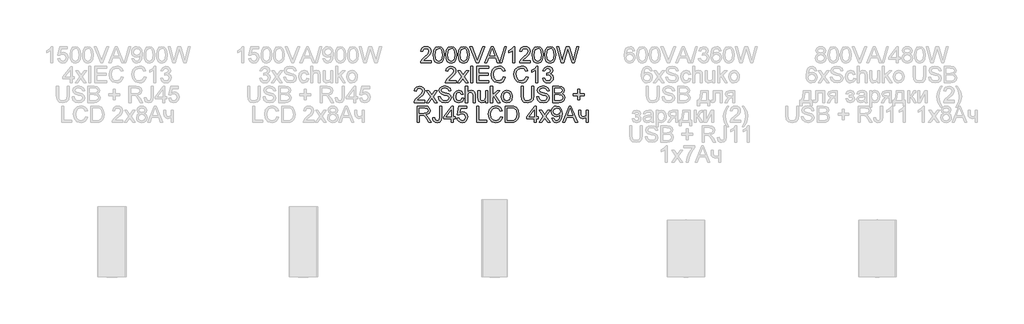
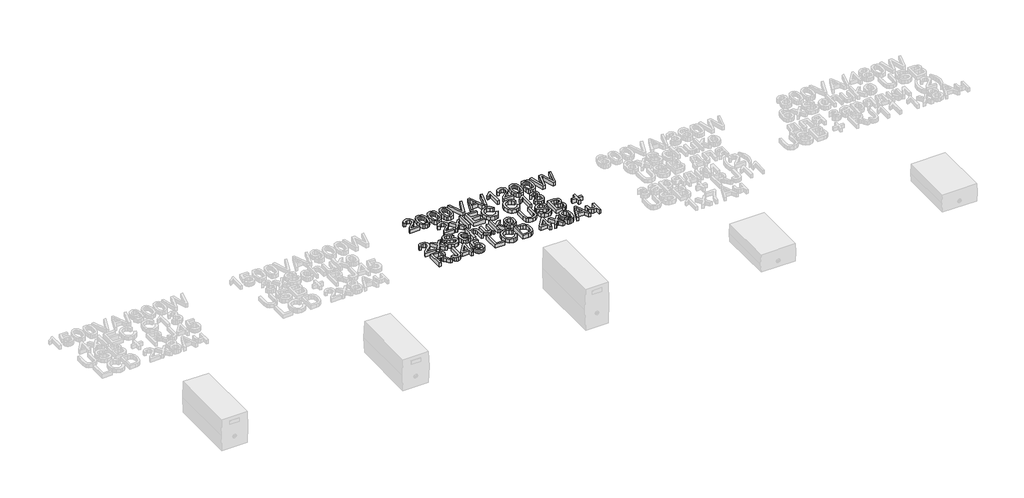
# One storey, part 49 of 74: 1 proxy.
"""IFC4 building model written with IfcOpenShell, lengths in millimetres."""

from ifc_helpers import new_model, si_unit, origin, origin_with_axes, place, context, project, spatial, polyline, outline, extrude, element, save

model = new_model("IFC4")

# Units and contexts
model_context = context("Model", 3, world=origin())
ifc_project = project(units=[si_unit("LENGTHUNIT", "METRE", prefix="MILLI")], contexts=[model_context])

# Site, building, storey
site = spatial("IfcSite", under=ifc_project)
building = spatial("IfcBuilding", under=site)
storey = spatial("IfcBuildingStorey", under=building, Name="Этаж 01", Elevation=0.0)

# Proxy
placement = place(None, origin())
element("IfcBuildingElementProxy", 1, Name="80 мм Arial", ObjectType="80 мм Arial", at=placement, inside=storey, context=model_context, shape_type="SweptSolid", body=[
    extrude(outline(polyline([(8574.8094335, -11016.5876949), (8574.8094335, -11026.633326), (8522.0698707, -11026.633326), (8523.1489912, -11019.7073343), (8529.2509273, -11009.0436615), (8541.8275864, -10997.3989701), (8559.1719962, -10980.6627918), (8563.5080987, -10969.2829755), (8559.4172509, -10960.0712103), (8548.7339577, -10956.3139089), (8537.599396, -10959.9829186), (8533.3712056, -10970.1266515), (8523.3255746, -10968.8709476), (8525.7609534, -10959.1539579), (8531.026571, -10952.0562879), (8538.8477422, -10947.7152804), (8548.9497818, -10946.2682778), (8559.1253978, -10947.8771484), (8566.9318538, -10952.7037602), (8571.8982607, -10959.9142473), (8573.5537297, -10968.6747439), (8571.7682757, -10978.200435), (8565.8331129, -10988.0498623), (8551.4415692, -11001.813554), (8539.8851695, -11011.4765878), (8535.3528633, -11016.5876949), (8574.8094335, -11016.5876949)])), origin_with_axes(), (0.0, 0.0, 1.0), 20.0),
    extrude(outline(polyline([(8584.8550646, -10987.0982742), (8587.8079307, -10963.9756645), (8596.5782375, -10950.643621), (8611.224846, -10946.2682778), (8622.9578291, -10948.8581671), (8631.0610432, -10956.323719), (8635.7699327, -10968.2136651), (8637.5946274, -10987.0982742), (8634.6711918, -11010.122782), (8625.9303156, -11023.4842561), (8611.224846, -11027.8890298), (8600.7868075, -11025.9760435), (8592.8601768, -11020.2370843), (8586.8563426, -11006.6450709), (8584.8550646, -10987.0982742)]), holes=[polyline([(8594.9006956, -10987.0786538), (8596.077918, -11002.8804118), (8599.6095851, -11012.0259582), (8611.224846, -11017.8433988), (8622.8401068, -11012.0063378), (8626.371774, -11002.8558863), (8627.5489964, -10987.0786538), (8626.4110147, -10971.6325151), (8622.9970698, -10962.4158449), (8617.74862, -10957.8393929), (8611.1071237, -10956.3139089), (8599.7665481, -10961.6898911), (8596.1171587, -10971.4804572), (8594.9006956, -10987.0786538)])]), origin_with_axes(), (0.0, 0.0, 1.0), 20.0),
    extrude(outline(polyline([(8646.3845545, -10987.0982742), (8649.3374207, -10963.9756645), (8658.1077274, -10950.643621), (8672.7543359, -10946.2682778), (8684.487319, -10948.8581671), (8692.5905331, -10956.323719), (8697.2994227, -10968.2136651), (8699.1241174, -10987.0982742), (8696.2006818, -11010.122782), (8687.4598056, -11023.4842561), (8672.7543359, -11027.8890298), (8662.3162975, -11025.9760435), (8654.3896667, -11020.2370843), (8648.3858326, -11006.6450709), (8646.3845545, -10987.0982742)]), holes=[polyline([(8656.4301855, -10987.0786538), (8657.6074079, -11002.8804118), (8661.1390751, -11012.0259582), (8672.7543359, -11017.8433988), (8684.3695968, -11012.0063378), (8687.901264, -11002.8558863), (8689.0784863, -10987.0786538), (8687.9405047, -10971.6325151), (8684.5265598, -10962.4158449), (8679.27811, -10957.8393929), (8672.6366137, -10956.3139089), (8661.2960381, -10961.6898911), (8657.6466487, -10971.4804572), (8656.4301855, -10987.0786538)])]), origin_with_axes(), (0.0, 0.0, 1.0), 20.0),
    extrude(outline(polyline([(8707.9140445, -10987.0982742), (8710.8669106, -10963.9756645), (8719.6372174, -10950.643621), (8734.2838259, -10946.2682778), (8746.016809, -10948.8581671), (8754.1200231, -10956.323719), (8758.8289126, -10968.2136651), (8760.6536073, -10987.0982742), (8757.7301717, -11010.122782), (8748.9892955, -11023.4842561), (8734.2838259, -11027.8890298), (8723.8457874, -11025.9760435), (8715.9191567, -11020.2370843), (8709.9153225, -11006.6450709), (8707.9140445, -10987.0982742)]), holes=[polyline([(8717.9596755, -10987.0786538), (8719.1368979, -11002.8804118), (8722.668565, -11012.0259582), (8734.2838259, -11017.8433988), (8745.8990868, -11012.0063378), (8749.4307539, -11002.8558863), (8750.6079763, -10987.0786538), (8749.4699947, -10971.6325151), (8746.0560498, -10962.4158449), (8740.8076, -10957.8393929), (8734.1661037, -10956.3139089), (8722.825528, -10961.6898911), (8719.1761386, -10971.4804572), (8717.9596755, -10987.0786538)])]), origin_with_axes(), (0.0, 0.0, 1.0), 20.0),
    extrude(outline(polyline([(8837.9382569, -11026.633326), (8870.0175668, -10946.2682778), (8878.5720495, -10946.2682778), (8910.6513595, -11026.633326), (8900.0367377, -11026.633326), (8890.8347827, -11001.5192484), (8857.7352133, -11001.5192484), (8848.5528787, -11026.633326), (8837.9382569, -11026.633326)]), holes=[polyline([(8861.4238434, -10991.4736174), (8887.1657729, -10991.4736174), (8879.9258553, -10971.7159017), (8874.2948082, -10956.3139089), (8869.291613, -10969.9893089), (8861.4238434, -10991.4736174)])]), origin_with_axes(), (0.0, 0.0, 1.0), 20.0),
    extrude(outline(polyline([(8796.9512975, -11026.633326), (8764.9700894, -10946.2682778), (8775.7220538, -10946.2682778), (8797.1278809, -11004.1679988), (8801.4639833, -11017.2155469), (8805.7412247, -11004.1679988), (8827.2059128, -10946.2682778), (8837.9578772, -10946.2682778), (8807.3304749, -11026.633326), (8796.9512975, -11026.633326)])), origin_with_axes(), (0.0, 0.0, 1.0), 20.0),
    extrude(outline(polyline([(8912.5937764, -11026.633326), (8935.1964462, -10946.2682778), (8944.2610586, -10946.2682778), (8921.6583888, -11026.633326), (8912.5937764, -11026.633326)])), origin_with_axes(), (0.0, 0.0, 1.0), 20.0),
    extrude(outline(polyline([(8986.6803052, -11026.633326), (8976.6346741, -11026.633326), (8976.6346741, -10964.0050951), (8967.1187932, -10970.783934), (8956.5434121, -10975.8558004), (8956.5434121, -10966.3595399), (8971.2685021, -10956.9613812), (8980.205582, -10946.2682778), (8986.6803052, -10946.2682778), (8986.6803052, -11026.633326)])), origin_with_axes(), (0.0, 0.0, 1.0), 20.0),
    extrude(outline(polyline([(9062.0225378, -11016.5876949), (9062.0225378, -11026.633326), (9009.2829749, -11026.633326), (9010.3620955, -11019.7073343), (9016.4640315, -11009.0436615), (9029.0406906, -10997.3989701), (9046.3851004, -10980.6627918), (9050.7212029, -10969.2829755), (9046.6303551, -10960.0712103), (9035.947062, -10956.3139089), (9024.8125002, -10959.9829186), (9020.5843098, -10970.1266515), (9010.5386788, -10968.8709476), (9012.9740576, -10959.1539579), (9018.2396753, -10952.0562879), (9026.0608465, -10947.7152804), (9036.1628861, -10946.2682778), (9046.338502, -10947.8771484), (9054.144958, -10952.7037602), (9059.1113649, -10959.9142473), (9060.7668339, -10968.6747439), (9058.9813799, -10978.200435), (9053.0462171, -10988.0498623), (9038.6546734, -11001.813554), (9027.0982737, -11011.4765878), (9022.5659675, -11016.5876949), (9062.0225378, -11016.5876949)])), origin_with_axes(), (0.0, 0.0, 1.0), 20.0),
    extrude(outline(polyline([(9072.0681688, -10987.0982742), (9075.0210349, -10963.9756645), (9083.7913417, -10950.643621), (9098.4379502, -10946.2682778), (9110.1709333, -10948.8581671), (9118.2741474, -10956.323719), (9122.9830369, -10968.2136651), (9124.8077316, -10987.0982742), (9121.884296, -11010.122782), (9113.1434198, -11023.4842561), (9098.4379502, -11027.8890298), (9087.9999117, -11025.9760435), (9080.073281, -11020.2370843), (9074.0694468, -11006.6450709), (9072.0681688, -10987.0982742)]), holes=[polyline([(9082.1137998, -10987.0786538), (9083.2910222, -11002.8804118), (9086.8226893, -11012.0259582), (9098.4379502, -11017.8433988), (9110.0532111, -11012.0063378), (9113.5848782, -11002.8558863), (9114.7621006, -10987.0786538), (9113.624119, -10971.6325151), (9110.210174, -10962.4158449), (9104.9617242, -10957.8393929), (9098.320228, -10956.3139089), (9086.9796523, -10961.6898911), (9083.3302629, -10971.4804572), (9082.1137998, -10987.0786538)])]), origin_with_axes(), (0.0, 0.0, 1.0), 20.0),
    extrude(outline(polyline([(9133.5976588, -10987.0982742), (9136.5505249, -10963.9756645), (9145.3208317, -10950.643621), (9159.9674402, -10946.2682778), (9171.7004233, -10948.8581671), (9179.8036373, -10956.323719), (9184.5125269, -10968.2136651), (9186.3372216, -10987.0982742), (9183.413786, -11010.122782), (9174.6729098, -11023.4842561), (9159.9674402, -11027.8890298), (9149.5294017, -11025.9760435), (9141.602771, -11020.2370843), (9135.5989368, -11006.6450709), (9133.5976588, -10987.0982742)]), holes=[polyline([(9143.6432898, -10987.0786538), (9144.8205122, -11002.8804118), (9148.3521793, -11012.0259582), (9159.9674402, -11017.8433988), (9171.582701, -11012.0063378), (9175.1143682, -11002.8558863), (9176.2915906, -10987.0786538), (9175.1536089, -10971.6325151), (9171.739664, -10962.4158449), (9166.4912142, -10957.8393929), (9159.8497179, -10956.3139089), (9148.5091423, -10961.6898911), (9144.8597529, -10971.4804572), (9143.6432898, -10987.0786538)])]), origin_with_axes(), (0.0, 0.0, 1.0), 20.0),
    extrude(outline(polyline([(9213.2759938, -11026.633326), (9191.3600371, -10946.2682778), (9201.7195941, -10946.2682778), (9214.4335958, -10999.0863222), (9218.3576704, -11015.3908522), (9222.5564303, -11000.969878), (9238.4881732, -10946.2682778), (9253.4192771, -10946.2682778), (9264.9952972, -10985.9210518), (9273.608641, -11015.3908522), (9277.4149934, -10999.5572111), (9290.2467174, -10946.2682778), (9300.6062744, -10946.2682778), (9278.6706973, -11026.633326), (9267.9383532, -11026.633326), (9248.6711468, -10964.632947), (9245.9831557, -10955.9803625), (9242.9616183, -10966.3987806), (9225.4013844, -11026.633326), (9213.2759938, -11026.633326)])), origin_with_axes(), (0.0, 0.0, 1.0), 20.0),
    extrude(outline(polyline([(8697.2405615, -11114.1675492), (8697.2405615, -11124.2131802), (8644.5009987, -11124.2131802), (8645.5801192, -11117.2871885), (8651.6820553, -11106.6235158), (8664.2587144, -11094.9788244), (8681.6031242, -11078.2426461), (8685.9392266, -11066.8628297), (8681.8483789, -11057.6510646), (8671.1650857, -11053.8937631), (8660.030524, -11057.5627729), (8655.8023336, -11067.7065058), (8645.7567026, -11066.4508019), (8648.1920814, -11056.7338121), (8653.457699, -11049.6361422), (8661.2788702, -11045.2951346), (8671.3809098, -11043.8481321), (8681.5565258, -11045.4570027), (8689.3629817, -11050.2836145), (8694.3293887, -11057.4941016), (8695.9848577, -11066.2545982), (8694.1994037, -11075.7802893), (8688.2642409, -11085.6297166), (8673.8726972, -11099.3934083), (8662.3162975, -11109.056442), (8657.7839913, -11114.1675492), (8697.2405615, -11114.1675492)])), origin_with_axes(), (0.0, 0.0, 1.0), 20.0),
    extrude(outline(polyline([(8703.5190809, -11124.2131802), (8724.9837691, -11094.5471761), (8704.7747848, -11065.195098), (8716.8609346, -11065.195098), (8726.61226, -11079.3217666), (8731.1641866, -11085.9926935), (8735.1078816, -11080.5382298), (8746.2130127, -11065.195098), (8758.2991626, -11065.195098), (8737.0699189, -11094.5471761), (8757.5143476, -11124.2131802), (8745.4281978, -11124.2131802), (8733.1262239, -11106.3782611), (8730.869881, -11103.1212792), (8715.6052307, -11124.2131802), (8703.5190809, -11124.2131802)])), origin_with_axes(), (0.0, 0.0, 1.0), 20.0),
    extrude(outline(polyline([(8768.8156825, -11124.2131802), (8768.8156825, -11043.8481321), (8778.8613135, -11043.8481321), (8778.8613135, -11124.2131802), (8768.8156825, -11124.2131802)])), origin_with_axes(), (0.0, 0.0, 1.0), 20.0),
    extrude(outline(polyline([(8798.9525756, -11124.2131802), (8798.9525756, -11043.8481321), (8856.7149539, -11043.8481321), (8856.7149539, -11053.8937631), (8808.9982066, -11053.8937631), (8808.9982066, -11077.7521368), (8854.2035461, -11077.7521368), (8854.2035461, -11087.7977678), (8808.9982066, -11087.7977678), (8808.9982066, -11114.1675492), (8857.9706578, -11114.1675492), (8857.9706578, -11124.2131802), (8798.9525756, -11124.2131802)])), origin_with_axes(), (0.0, 0.0, 1.0), 20.0),
    extrude(outline(polyline([(8929.5457788, -11095.645917), (8939.5914098, -11098.2358063), (8934.9560966, -11109.9418114), (8927.6818433, -11118.4938415), (8918.1267216, -11123.7251235), (8906.6488034, -11125.4688841), (8885.7432959, -11120.1910038), (8873.4805627, -11104.9067331), (8869.2719927, -11083.4224246), (8874.0299331, -11061.5849494), (8887.5581804, -11047.4288502), (8906.8646275, -11042.5924282), (8917.8790144, -11044.157153), (8926.9853201, -11048.8513273), (8933.899049, -11056.3855505), (8938.3357059, -11066.4704223), (8928.2900749, -11068.8641078), (8920.0495182, -11056.5130829), (8906.47222, -11052.6380593), (8890.7563012, -11056.934921), (8881.8780824, -11068.4717003), (8879.3176237, -11083.4028042), (8882.3489713, -11100.7079733), (8891.7863708, -11111.7640535), (8905.6481644, -11115.4232531), (8921.0207267, -11110.4396783), (8929.5457788, -11095.645917)])), origin_with_axes(), (0.0, 0.0, 1.0), 20.0),
    extrude(outline(polyline([(9041.3034238, -11095.645917), (9051.3490548, -11098.2358063), (9046.7137417, -11109.9418114), (9039.4394884, -11118.4938415), (9029.8843667, -11123.7251235), (9018.4064484, -11125.4688841), (8997.5009409, -11120.1910038), (8985.2382077, -11104.9067331), (8981.0296377, -11083.4224246), (8985.7875782, -11061.5849494), (8999.3158254, -11047.4288502), (9018.6222725, -11042.5924282), (9029.6366595, -11044.157153), (9038.7429651, -11048.8513273), (9045.6566941, -11056.3855505), (9050.0933509, -11066.4704223), (9040.0477199, -11068.8641078), (9031.8071632, -11056.5130829), (9018.2298651, -11052.6380593), (9002.5139462, -11056.934921), (8993.6357274, -11068.4717003), (8991.0752687, -11083.4028042), (8994.1066164, -11100.7079733), (9003.5440158, -11111.7640535), (9017.4058094, -11115.4232531), (9032.7783717, -11110.4396783), (9041.3034238, -11095.645917)])), origin_with_axes(), (0.0, 0.0, 1.0), 20.0),
    extrude(outline(polyline([(9099.0658021, -11124.2131802), (9089.0201711, -11124.2131802), (9089.0201711, -11061.5849494), (9079.5042902, -11068.3637883), (9068.9289091, -11073.4356547), (9068.9289091, -11063.9393941), (9083.6539991, -11054.5412354), (9092.591079, -11043.8481321), (9099.0658021, -11043.8481321), (9099.0658021, -11124.2131802)])), origin_with_axes(), (0.0, 0.0, 1.0), 20.0),
    extrude(outline(polyline([(9122.9241758, -11102.8662143), (9132.9698068, -11101.6105105), (9138.5125622, -11112.1858915), (9148.8819294, -11115.4232531), (9161.0858014, -11110.9694284), (9165.6181076, -11099.9427787), (9161.1250422, -11089.5537912), (9149.705985, -11085.443323), (9142.6622711, -11086.5420639), (9143.7806324, -11076.4964329), (9145.389503, -11076.6141552), (9156.7889397, -11073.7299603), (9161.850996, -11064.8615517), (9158.1819862, -11057.0035923), (9148.7249664, -11053.8937631), (9139.1502243, -11057.0330228), (9134.2255107, -11066.4508019), (9124.1798797, -11065.195098), (9132.400816, -11049.4399384), (9148.3717997, -11043.8481321), (9160.4873801, -11046.6047945), (9168.9633812, -11054.1390178), (9171.896627, -11064.2729405), (9169.110534, -11073.5337566), (9160.8699773, -11080.1850631), (9171.8181455, -11087.0521936), (9175.6637386, -11100.1193621), (9173.7409421, -11109.9099283), (9167.9725524, -11118.0916238), (9159.2660118, -11123.624569), (9148.5287627, -11125.4688841), (9138.816678, -11123.8943492), (9130.9096676, -11119.1707444), (9125.4110581, -11111.945542), (9122.9241758, -11102.8662143)])), origin_with_axes(), (0.0, 0.0, 1.0), 20.0),
    extrude(outline(polyline([(8543.4168366, -11211.7474035), (8543.4168366, -11221.7930345), (8490.6772738, -11221.7930345), (8491.7563943, -11214.8670428), (8497.8583303, -11204.2033701), (8510.4349895, -11192.5586786), (8527.7793993, -11175.8225004), (8532.1155017, -11164.442684), (8528.0246539, -11155.2309189), (8517.3413608, -11151.4736174), (8506.2067991, -11155.1426272), (8501.9786087, -11165.2863601), (8491.9329777, -11164.0306562), (8494.3683565, -11154.3136664), (8499.6339741, -11147.2159965), (8507.4551453, -11142.8749889), (8517.5571849, -11141.4279864), (8527.7328009, -11143.036857), (8535.5392568, -11147.8634688), (8540.5056638, -11155.0739559), (8542.1611327, -11163.8344524), (8540.3756788, -11173.3601436), (8534.4405159, -11183.2095709), (8520.0489723, -11196.9732626), (8508.4925725, -11206.6362963), (8503.9602664, -11211.7474035), (8543.4168366, -11211.7474035)])), origin_with_axes(), (0.0, 0.0, 1.0), 20.0),
    extrude(outline(polyline([(8549.695356, -11221.7930345), (8571.1600442, -11192.1270304), (8550.9510599, -11162.7749523), (8563.0372097, -11162.7749523), (8572.7885351, -11176.9016209), (8577.3404617, -11183.5725478), (8581.2841567, -11178.118084), (8592.3892878, -11162.7749523), (8604.4754376, -11162.7749523), (8583.246194, -11192.1270304), (8603.6906227, -11221.7930345), (8591.6044729, -11221.7930345), (8579.302499, -11203.9581154), (8577.0461561, -11200.7011335), (8561.7815058, -11221.7930345), (8549.695356, -11221.7930345)])), origin_with_axes(), (0.0, 0.0, 1.0), 20.0),
    extrude(outline(polyline([(8609.9691421, -11194.1675492), (8620.0147731, -11194.1675492), (8623.2521347, -11204.2229904), (8631.159145, -11210.5799913), (8643.2060541, -11213.0031074), (8653.7029537, -11211.1686025), (8660.4817926, -11206.1261666), (8662.7087049, -11199.3865685), (8661.0409732, -11193.1178593), (8654.2130834, -11188.5561225), (8639.5860953, -11184.7203396), (8623.8407459, -11179.7661954), (8615.2960734, -11172.2908332), (8612.4805499, -11162.3040633), (8615.9631661, -11150.9340571), (8626.1363295, -11142.9093246), (8641.0281927, -11140.1722825), (8656.9206949, -11143.036857), (8667.5156963, -11151.453997), (8671.4986321, -11164.0306562), (8661.453001, -11164.0306562), (8655.7630929, -11153.7103399), (8641.4206001, -11150.2179135), (8627.0388667, -11153.6710992), (8622.5261809, -11162.0097577), (8625.7243017, -11168.9749902), (8642.1269336, -11174.5864169), (8659.9029916, -11179.6288528), (8669.6248864, -11187.7713076), (8672.7543359, -11199.1315036), (8669.1539975, -11211.1489821), (8658.7944405, -11219.9192889), (8643.5984615, -11223.0487384), (8625.6556304, -11219.6740342), (8614.3052445, -11209.510681), (8609.9691421, -11194.1675492)])), origin_with_axes(), (0.0, 0.0, 1.0), 20.0),
    extrude(outline(polyline([(8724.2381949, -11200.4460686), (8734.2838259, -11201.7017725), (8731.4830177, -11210.6363999), (8726.2198526, -11217.3882608), (8710.2881096, -11223.0487384), (8699.6023639, -11221.0744383), (8691.2465376, -11215.1515382), (8685.8533875, -11205.540008), (8684.0556708, -11192.4998175), (8687.1262592, -11175.8126902), (8696.4851772, -11165.0901563), (8710.150767, -11161.5192484), (8725.4252275, -11166.4243417), (8733.028122, -11180.3548066), (8722.982491, -11181.6105105), (8718.3226524, -11174.0860974), (8710.2292485, -11171.5648794), (8698.5845571, -11176.5288338), (8694.1013018, -11192.2251323), (8698.4864552, -11208.0685835), (8709.9545633, -11213.0031074), (8719.4213933, -11209.9227088), (8724.2381949, -11200.4460686)])), origin_with_axes(), (0.0, 0.0, 1.0), 20.0),
    extrude(outline(polyline([(8743.073753, -11221.7930345), (8743.073753, -11141.4279864), (8753.1193841, -11141.4279864), (8753.1193841, -11170.9762682), (8760.952818, -11163.8835034), (8770.6011365, -11161.5192484), (8781.882851, -11164.0993275), (8788.7303612, -11171.2313331), (8790.7905004, -11184.4358442), (8790.7905004, -11221.7930345), (8780.7448694, -11221.7930345), (8780.7448694, -11185.4757239), (8777.5467485, -11174.8807225), (8768.4821362, -11171.5648794), (8760.2513897, -11173.801602), (8754.7576852, -11179.8642972), (8753.1193841, -11190.4396783), (8753.1193841, -11221.7930345), (8743.073753, -11221.7930345)])), origin_with_axes(), (0.0, 0.0, 1.0), 20.0),
    extrude(outline(polyline([(8842.2743593, -11221.7930345), (8842.2743593, -11211.6493016), (8834.4065897, -11220.1988792), (8824.1451346, -11223.0487384), (8814.697925, -11221.0474603), (8808.1839611, -11216.0246448), (8805.1918542, -11208.6277642), (8804.603243, -11199.2884666), (8804.603243, -11162.7749523), (8814.648874, -11162.7749523), (8814.648874, -11194.5599567), (8815.2571056, -11204.8017914), (8819.2302311, -11210.8154358), (8826.7154035, -11213.0031074), (8835.103113, -11210.7663848), (8840.6458684, -11204.674259), (8842.2743593, -11193.4808362), (8842.2743593, -11162.7749523), (8852.3199903, -11162.7749523), (8852.3199903, -11221.7930345), (8842.2743593, -11221.7930345)])), origin_with_axes(), (0.0, 0.0, 1.0), 20.0),
    extrude(outline(polyline([(8866.132733, -11221.7930345), (8866.132733, -11141.4279864), (8876.178364, -11141.4279864), (8876.178364, -11184.6124275), (8898.7025523, -11162.7749523), (8912.5937764, -11162.7749523), (8889.7949029, -11184.8871128), (8913.8494803, -11221.7930345), (8902.1164972, -11221.7930345), (8882.594226, -11191.8719656), (8876.178364, -11198.0916238), (8876.178364, -11221.7930345), (8866.132733, -11221.7930345)])), origin_with_axes(), (0.0, 0.0, 1.0), 20.0),
    extrude(outline(polyline([(8920.1279997, -11192.2839934), (8922.300956, -11178.0543178), (8928.819825, -11168.0528327), (8936.8739881, -11163.1526445), (8946.5174015, -11161.5192484), (8957.0707096, -11163.5082637), (8965.5001124, -11169.4753097), (8971.0257, -11178.9494974), (8972.8675625, -11191.4599377), (8969.6105806, -11209.3340976), (8960.1241302, -11219.4483999), (8946.5174015, -11223.0487384), (8935.8365609, -11221.0670807), (8927.4169683, -11215.1221077), (8921.9502418, -11205.4492637), (8920.1279997, -11192.2839934)]), holes=[polyline([(8930.1736307, -11192.264373), (8934.8236591, -11207.8331391), (8946.5174015, -11213.0031074), (8958.1719031, -11207.8037085), (8962.8219315, -11191.9504471), (8958.1424725, -11176.7348477), (8946.5174015, -11171.5648794), (8934.8236591, -11176.7152274), (8930.1736307, -11192.264373)])]), origin_with_axes(), (0.0, 0.0, 1.0), 20.0),
    extrude(outline(polyline([(9069.556761, -11141.4279864), (9079.602392, -11141.4279864), (9079.602392, -11187.790928), (9076.8751602, -11207.0090834), (9067.0453533, -11218.5851035), (9048.4059989, -11223.0487384), (9030.0511398, -11219.1639045), (9019.8681662, -11207.9116206), (9016.8171982, -11187.790928), (9016.8171982, -11141.4279864), (9026.8628292, -11141.4279864), (9026.8628292, -11187.4377613), (9028.8444869, -11202.7514624), (9035.6527564, -11210.3347366), (9047.4642209, -11213.0031074), (9057.6815302, -11211.6836373), (9064.4750844, -11207.725227), (9068.2863419, -11200.0144204), (9069.556761, -11187.4377613), (9069.556761, -11141.4279864)])), origin_with_axes(), (0.0, 0.0, 1.0), 20.0),
    extrude(outline(polyline([(9093.4151347, -11194.1675492), (9103.4607657, -11194.1675492), (9106.6981273, -11204.2229904), (9114.6051376, -11210.5799913), (9126.6520467, -11213.0031074), (9137.1489463, -11211.1686025), (9143.9277852, -11206.1261666), (9146.1546975, -11199.3865685), (9144.4869658, -11193.1178593), (9137.659076, -11188.5561225), (9123.0320879, -11184.7203396), (9107.2867385, -11179.7661954), (9098.742066, -11172.2908332), (9095.9265424, -11162.3040633), (9099.4091587, -11150.9340571), (9109.5823221, -11142.9093246), (9124.4741853, -11140.1722825), (9140.3666875, -11143.036857), (9150.9616889, -11151.453997), (9154.9446247, -11164.0306562), (9144.8989936, -11164.0306562), (9139.2090855, -11153.7103399), (9124.8665927, -11150.2179135), (9110.4848593, -11153.6710992), (9105.9721735, -11162.0097577), (9109.1702943, -11168.9749902), (9125.5729262, -11174.5864169), (9143.3489842, -11179.6288528), (9153.070879, -11187.7713076), (9156.2003285, -11199.1315036), (9152.5999901, -11211.1489821), (9142.2404331, -11219.9192889), (9127.0444541, -11223.0487384), (9109.101623, -11219.6740342), (9097.7512371, -11209.510681), (9093.4151347, -11194.1675492)])), origin_with_axes(), (0.0, 0.0, 1.0), 20.0),
    extrude(outline(polyline([(9171.2687751, -11221.7930345), (9171.2687751, -11141.4279864), (9201.9354182, -11141.4279864), (9216.9548138, -11143.7922413), (9225.8232224, -11151.0615896), (9229.0311534, -11161.3426651), (9226.3333521, -11170.7310136), (9218.1810871, -11177.8433988), (9228.0795653, -11185.3383813), (9231.5425611, -11197.836559), (9229.1783062, -11208.6375744), (9223.3216248, -11216.3287606), (9214.5807486, -11220.4097982), (9201.6999737, -11221.7930345), (9171.2687751, -11221.7930345)]), holes=[polyline([(9181.3144061, -11174.0762872), (9199.6594549, -11174.0762872), (9210.3721786, -11173.2129908), (9216.8174712, -11169.4949301), (9218.9855224, -11162.9515357), (9216.964624, -11156.3983311), (9211.1766139, -11152.5233074), (9198.2664084, -11151.4736174), (9181.3144061, -11151.4736174), (9181.3144061, -11174.0762872)]), polyline([(9181.3144061, -11211.7474035), (9201.9157978, -11211.7474035), (9209.3715396, -11211.354996), (9215.6794895, -11209.1673244), (9219.858629, -11204.7036896), (9221.4969301, -11197.9346609), (9219.5741336, -11190.1257524), (9213.3446651, -11185.4659138), (9200.9347791, -11184.1219182), (9181.3144061, -11184.1219182), (9181.3144061, -11211.7474035)])]), origin_with_axes(), (0.0, 0.0, 1.0), 20.0),
    extrude(outline(polyline([(9295.5834589, -11209.2359957), (9295.5834589, -11187.8890298), (9274.236493, -11187.8890298), (9274.236493, -11177.8433988), (9295.5834589, -11177.8433988), (9295.5834589, -11156.4964329), (9305.6290899, -11156.4964329), (9305.6290899, -11177.8433988), (9326.9760558, -11177.8433988), (9326.9760558, -11187.8890298), (9305.6290899, -11187.8890298), (9305.6290899, -11209.2359957), (9295.5834589, -11209.2359957)])), origin_with_axes(), (0.0, 0.0, 1.0), 20.0),
    extrude(outline(polyline([(8506.3735723, -11319.3728888), (8506.3735723, -11239.0078407), (8541.0035307, -11239.0078407), (8557.0824265, -11241.1758919), (8565.8723536, -11248.8474578), (8569.1587661, -11261.0022789), (8563.7141126, -11275.4821142), (8546.8896427, -11282.9574764), (8552.5991712, -11287.2543381), (8560.741626, -11297.5942747), (8574.1423409, -11319.3728888), (8562.4682189, -11319.3728888), (8552.01056, -11302.715192), (8544.4567164, -11291.6885424), (8539.1494055, -11286.4793333), (8534.3718446, -11284.566347), (8528.5445938, -11284.2131802), (8516.4192033, -11284.2131802), (8516.4192033, -11319.3728888), (8506.3735723, -11319.3728888)]), holes=[polyline([(8516.4192033, -11274.1675492), (8538.9041508, -11274.1675492), (8550.3722589, -11272.7450722), (8556.8862227, -11268.1931456), (8559.1131351, -11261.375066), (8554.8653243, -11252.5262777), (8541.4351789, -11249.0534717), (8516.4192033, -11249.0534717), (8516.4192033, -11274.1675492)])]), origin_with_axes(), (0.0, 0.0, 1.0), 20.0),
    extrude(outline(polyline([(8581.7158049, -11296.8094598), (8591.7614359, -11295.5145151), (8595.1950012, -11307.3848408), (8603.6710023, -11310.5829617), (8610.5479431, -11308.7680771), (8614.5308788, -11303.8237431), (8615.6198095, -11293.8664038), (8615.6198095, -11239.0078407), (8625.6654406, -11239.0078407), (8625.6654406, -11293.6898204), (8623.2423245, -11309.2978272), (8615.5511382, -11317.7247775), (8603.2001134, -11320.6285927), (8593.9147718, -11319.1300867), (8587.0917871, -11314.6345687), (8582.9518884, -11307.1812795), (8581.7158049, -11296.8094598)])), origin_with_axes(), (0.0, 0.0, 1.0), 20.0),
    extrude(outline(polyline([(8672.126484, -11319.3728888), (8672.126484, -11300.5373306), (8635.7110716, -11300.5373306), (8635.7110716, -11290.4916996), (8674.6378918, -11240.2635445), (8682.172115, -11240.2635445), (8682.172115, -11290.4916996), (8692.217746, -11290.4916996), (8692.217746, -11300.5373306), (8682.172115, -11300.5373306), (8682.172115, -11319.3728888), (8672.126484, -11319.3728888)]), holes=[polyline([(8672.126484, -11290.4916996), (8672.126484, -11259.4522694), (8648.0719066, -11290.4916996), (8672.126484, -11290.4916996)])]), origin_with_axes(), (0.0, 0.0, 1.0), 20.0),
    extrude(outline(polyline([(8701.0076732, -11298.0259229), (8711.0533042, -11296.770219), (8716.1153604, -11307.1199658), (8726.61226, -11310.5829617), (8739.2085395, -11305.7661601), (8743.701605, -11292.983487), (8739.493035, -11281.0543002), (8726.769223, -11276.678957), (8717.9498653, -11278.4251702), (8712.3090081, -11282.9574764), (8702.263377, -11281.7017725), (8711.0533042, -11240.2635445), (8749.9801244, -11240.2635445), (8749.9801244, -11250.3091756), (8719.1761386, -11250.3091756), (8714.8792769, -11272.4409564), (8729.5749364, -11266.633326), (8738.9608323, -11268.4334952), (8746.752573, -11273.8340029), (8751.9985702, -11282.0647494), (8753.747236, -11292.3556351), (8752.1727011, -11302.4012661), (8747.4490962, -11310.9949895), (8738.4041043, -11318.2201919), (8726.5730193, -11320.6285927), (8716.7064242, -11319.0810357), (8708.8460122, -11314.438365), (8703.4577673, -11307.2401406), (8701.0076732, -11298.0259229)])), origin_with_axes(), (0.0, 0.0, 1.0), 20.0),
    extrude(outline(polyline([(8797.6968717, -11319.3728888), (8797.6968717, -11239.0078407), (8807.7425027, -11239.0078407), (8807.7425027, -11309.3272578), (8847.9250268, -11309.3272578), (8847.9250268, -11319.3728888), (8797.6968717, -11319.3728888)])), origin_with_axes(), (0.0, 0.0, 1.0), 20.0),
    extrude(outline(polyline([(8915.7330361, -11290.8056256), (8925.7786671, -11293.3955148), (8921.143354, -11305.1015199), (8913.8691007, -11313.65355), (8904.313979, -11318.884832), (8892.8360607, -11320.6285927), (8871.9305532, -11315.3507123), (8859.6678201, -11300.0664417), (8855.45925, -11278.5821332), (8860.2171905, -11256.7446579), (8873.7454377, -11242.5885588), (8893.0518848, -11237.7521368), (8904.0662718, -11239.3168615), (8913.1725774, -11244.0110358), (8920.0863064, -11251.5452591), (8924.5229633, -11261.6301308), (8914.4773322, -11264.0238163), (8906.2367755, -11251.6727915), (8892.6594774, -11247.7977678), (8876.9435585, -11252.0946295), (8868.0653397, -11263.6314089), (8865.504881, -11278.5625128), (8868.5362287, -11295.8676818), (8877.9736281, -11306.9237621), (8891.8354217, -11310.5829617), (8907.207984, -11305.5993869), (8915.7330361, -11290.8056256)])), origin_with_axes(), (0.0, 0.0, 1.0), 20.0),
    extrude(outline(polyline([(8939.5914098, -11319.3728888), (8939.5914098, -11239.0078407), (8967.3149969, -11239.0078407), (8981.6574897, -11240.1654427), (8993.4689542, -11245.914212), (9002.9848352, -11259.6484731), (9006.1437152, -11278.7587165), (9004.0050946, -11294.9749549), (8998.5113901, -11306.6785074), (8991.1733706, -11313.967476), (8981.569198, -11317.9994627), (8968.6491823, -11319.3728888), (8939.5914098, -11319.3728888)]), holes=[polyline([(8949.6370408, -11309.3272578), (8967.4130988, -11309.3272578), (8980.3429247, -11307.8753502), (8987.7986664, -11303.7746922), (8993.9104126, -11293.7977325), (8996.0980842, -11278.6017535), (8991.8110327, -11259.5699917), (8981.3828044, -11250.6623423), (8967.1384136, -11249.0534717), (8949.6370408, -11249.0534717), (8949.6370408, -11309.3272578)])]), origin_with_axes(), (0.0, 0.0, 1.0), 20.0),
    extrude(outline(polyline([(9080.230244, -11319.3728888), (9080.230244, -11300.5373306), (9043.8148316, -11300.5373306), (9043.8148316, -11290.4916996), (9082.7416517, -11240.2635445), (9090.275875, -11240.2635445), (9090.275875, -11290.4916996), (9100.321506, -11290.4916996), (9100.321506, -11300.5373306), (9090.275875, -11300.5373306), (9090.275875, -11319.3728888), (9080.230244, -11319.3728888)]), holes=[polyline([(9080.230244, -11290.4916996), (9080.230244, -11259.4522694), (9056.1756666, -11290.4916996), (9080.230244, -11290.4916996)])]), origin_with_axes(), (0.0, 0.0, 1.0), 20.0),
    extrude(outline(polyline([(9105.3443215, -11319.3728888), (9126.8090097, -11289.7068847), (9106.6000254, -11260.3548066), (9118.6861752, -11260.3548066), (9128.4375006, -11274.4814752), (9132.9894272, -11281.152402), (9136.9331222, -11275.6979383), (9148.0382533, -11260.3548066), (9160.1244032, -11260.3548066), (9138.8951595, -11289.7068847), (9159.3395882, -11319.3728888), (9147.2534384, -11319.3728888), (9134.9514645, -11301.5379697), (9132.6951216, -11298.2809877), (9117.4304713, -11319.3728888), (9105.3443215, -11319.3728888)])), origin_with_axes(), (0.0, 0.0, 1.0), 20.0),
    extrude(outline(polyline([(9166.8738115, -11299.2816268), (9176.9194425, -11298.0259229), (9181.4321283, -11307.6104751), (9189.986611, -11310.5829617), (9198.1192556, -11308.6699753), (9203.6325804, -11303.5588681), (9206.9189929, -11294.8278021), (9208.3709005, -11283.1733005), (9208.3120394, -11281.2112632), (9200.2774967, -11288.8239679), (9189.2606572, -11291.7474035), (9180.1003955, -11289.9619495), (9172.475428, -11284.6055877), (9167.3324377, -11276.3306954), (9165.6181076, -11265.7896499), (9167.4158243, -11254.9003429), (9172.8089743, -11246.3654806), (9180.9097359, -11240.8472506), (9190.830287, -11239.0078407), (9205.1433492, -11243.2066005), (9214.9927765, -11255.1750281), (9218.3576704, -11277.6599756), (9215.0025866, -11302.0579095), (9205.0256269, -11315.8804624), (9189.515722, -11320.6285927), (9180.9269037, -11319.2281885), (9174.0744884, -11315.0269762), (9166.8738115, -11299.2816268)]), holes=[polyline([(9208.3120394, -11265.5542054), (9203.975937, -11253.5072964), (9192.458778, -11249.0534717), (9180.3726282, -11253.8506529), (9175.6637386, -11266.2801592), (9180.1175633, -11277.414721), (9192.1840928, -11281.7017725), (9203.7699231, -11277.414721), (9208.3120394, -11265.5542054)])]), origin_with_axes(), (0.0, 0.0, 1.0), 20.0),
    extrude(outline(polyline([(9221.5557913, -11319.3728888), (9253.6351012, -11239.0078407), (9262.1895839, -11239.0078407), (9294.2688939, -11319.3728888), (9283.654272, -11319.3728888), (9274.4523171, -11294.2588113), (9241.3527477, -11294.2588113), (9232.1704131, -11319.3728888), (9221.5557913, -11319.3728888)]), holes=[polyline([(9245.0413778, -11284.2131802), (9270.7833073, -11284.2131802), (9263.5433896, -11264.4554645), (9257.9123426, -11249.0534717), (9252.9091474, -11262.7288717), (9245.0413778, -11284.2131802)])]), origin_with_axes(), (0.0, 0.0, 1.0), 20.0),
    extrude(outline(polyline([(9299.9784224, -11260.3548066), (9310.0240535, -11260.3548066), (9310.0240535, -11271.6757618), (9310.8382989, -11282.2903837), (9314.7525634, -11288.039153), (9322.5222311, -11290.4916996), (9336.3938349, -11287.4505418), (9336.3938349, -11260.3548066), (9346.4394659, -11260.3548066), (9346.4394659, -11319.3728888), (9336.3938349, -11319.3728888), (9336.3938349, -11297.084145), (9319.83424, -11300.5373306), (9308.4446134, -11296.9369922), (9301.744256, -11288.1176345), (9299.9784224, -11276.6397162), (9299.9784224, -11260.3548066)])), origin_with_axes(), (0.0, 0.0, 1.0), 20.0),
])

save(model, "model.ifc")
